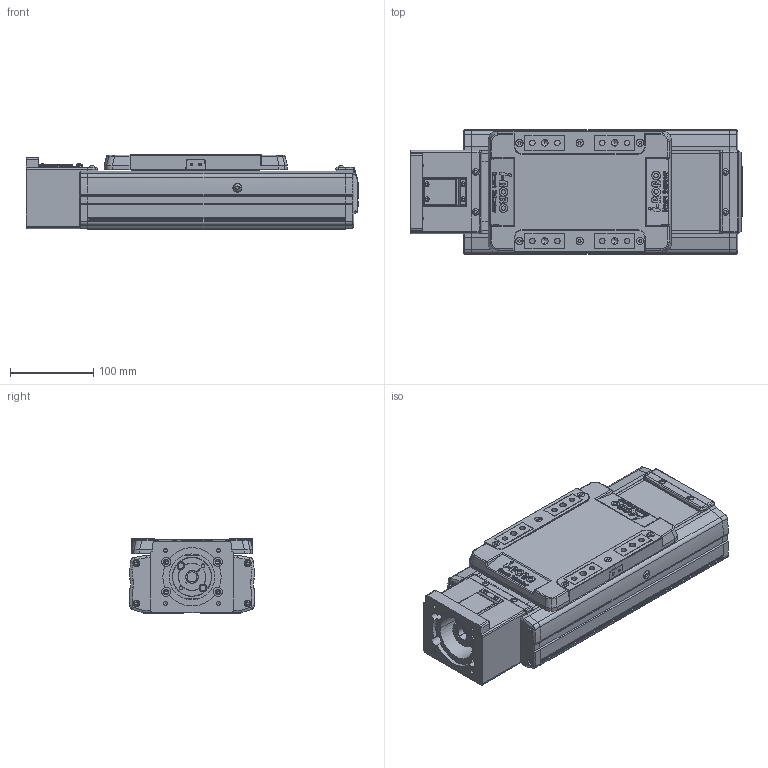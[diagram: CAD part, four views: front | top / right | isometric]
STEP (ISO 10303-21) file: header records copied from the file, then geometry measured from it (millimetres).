
FILE_DESCRIPTION(('STEP AP214'),'1');
FILE_NAME('Z:/Web/3D/SAN150/2013.04 (STP.)/SAN150ㅁㅁ-50S.stp','2013-05-08T02:55:16',(' '),(' '),'Spatial InterOp 3D',' ',' ');
FILE_SCHEMA(('automotive_design'));
Length unit declared in the file: millimetre
Products named in the file (73): SLBL-SAN150; SLCV-SAN150; FHCS M4.0 x 8.0; BHCS M4.0 x 10.0; SFX-SAN150; RRCV-SAN150; FRBL-SAN150; Spacer; RN15; FRCV-SAN150; Screw 20; BASE-SAN150-000L ; SUS COVER; 스크루 : Round - M5.0 x 6.0; BHCS M3.0 x 6.0; SSFX-SAN65; CPLCV-SAN65; SDWA47C(2); SDWA47C(3-1); SDWA47C(3); SDWA47C(1); SDWA47C(4); SDWA47C(5); MTHZ-SAN150-80
Bounding box: 399 x 150 x 90 mm (x, y, z)
Volume: 2935327.5 mm3; surface area: 580879.6 mm2
Topology: 73 solids, 73 shells, 2689 faces, 6999 edges, 4525 vertices
Faces by surface type: plane 1170, cylinder 1093, cone 329, sphere 52, bspline 29, torus 16
Entity records: 108376 total; most frequent: CARTESIAN_POINT 17324, DIRECTION 15227, ORIENTED_EDGE 13814, EDGE_CURVE 6907, AXIS2_PLACEMENT_3D 5715, VERTEX_POINT 4525, LINE 3797, VECTOR 3797
